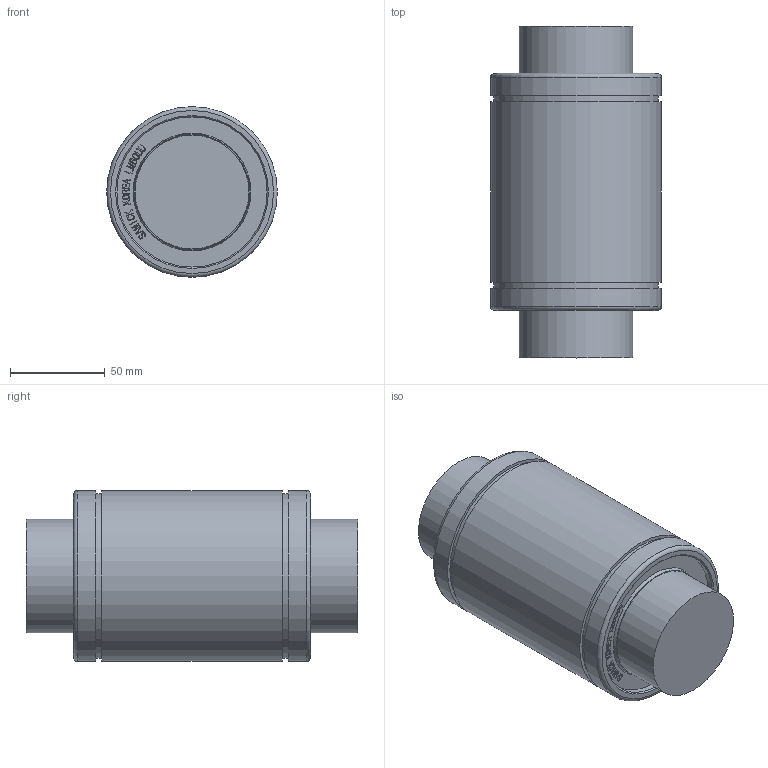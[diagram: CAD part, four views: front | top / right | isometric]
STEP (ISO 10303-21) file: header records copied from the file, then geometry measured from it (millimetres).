
FILE_DESCRIPTION(/* description */ (''),/* implementation_level */ '2;1');
FILE_NAME(/* name */ 'W:\(01) 2024년 홈페이지 CAD파일 최신화\LME\IPT\LME60UU.stp',/* time_stamp */ '2025-01-25T08:56:23+09:00',/* author */ ('서우현'),/* organization */ (''),/* preprocessor_version */ 'ST-DEVELOPER v17.2',/* originating_system */ 'Autodesk Inventor 2019',/* authorisation */ '');
FILE_SCHEMA (('AUTOMOTIVE_DESIGN { 1 0 10303 214 3 1 1 }'));
Length unit declared in the file: millimetre
Products named in the file (1): LM5
Bounding box: 90 x 175 x 90 mm (x, y, z)
Volume: 917910.7 mm3; surface area: 61805.8 mm2
Topology: 1 solids, 1 shells, 835 faces, 2353 edges, 1576 vertices
Faces by surface type: bspline 600, plane 220, cylinder 9, cone 4, torus 2
Full cylindrical faces by diameter (mm): 60 x2, 79.2 x2, 86.5 x2, 90 x3
Entity records: 28837 total; most frequent: CARTESIAN_POINT 10877, ORIENTED_EDGE 4706, EDGE_CURVE 2353, DIRECTION 1679, VERTEX_POINT 1576, B_SPLINE_CURVE_WITH_KNOTS 1200, LINE 1099, VECTOR 1099
